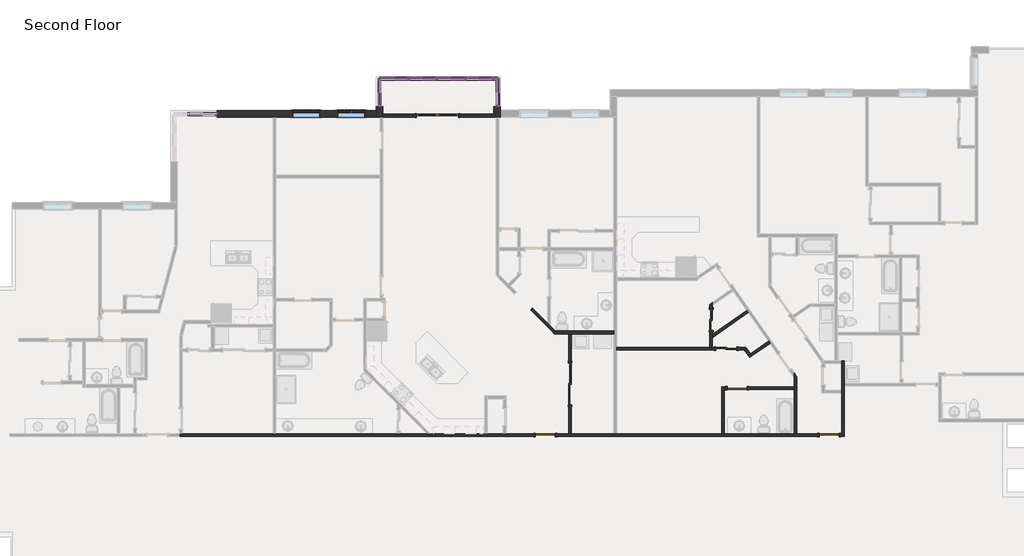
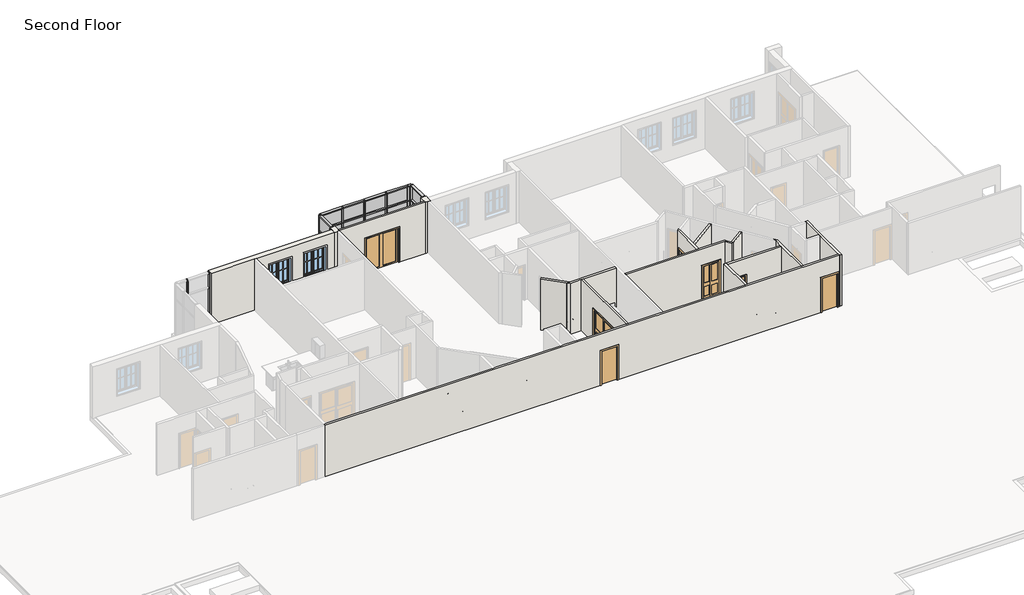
# One storey, part 10 of 17: 46 members, 17 walls, 14 plates, 7 doors, 2 windows.
"""IFC4 building model written with IfcOpenShell, lengths in millimetres."""

from ifc_helpers import new_model, si_unit, frame, origin, place, context, project, spatial, polyline, outline, extrude, faceted_brep, transform, mapped, element, save
from components import door_0a7806e9, door_c29894e6, door_88c23cd7, door_caaf2a11, rectangular_mullion_rectangular_mullion_1_fa3625a1, rectangular_mullion_rectangular_mullion_1_6186cc23, rectangular_mullion_rectangular_mullion_1_049a2e78, rectangular_mullion_rectangular_mullion_1_5cd4c5ac, rectangular_mullion_rectangular_mullion_1_a50b3cda, rectangular_mullion_rectangular_mullion_1_7cbf0b94, rectangular_mullion_rectangular_mullion_1_273a15f2, rectangular_mullion_rectangular_mullion_1_867fe1e1, rectangular_mullion_rectangular_mullion_1_e7cd13e6, rectangular_mullion_rectangular_mullion_1_4b421c8f, system_panel_glazed_53e6f9fb, system_panel_glazed_cb820e14, system_panel_glazed_53e3ec8b, system_panel_glazed_bdec29fe, system_panel_glazed_a1d2dedd, system_panel_glazed_37454f57, window_33528cc2

model = new_model("IFC4")

# Units and contexts
model_context = context("Model", 3, world=origin())
ifc_project = project(units=[si_unit("LENGTHUNIT", "METRE", prefix="MILLI")], contexts=[model_context])

# Site, building, storey
site = spatial("IfcSite", under=ifc_project)
building = spatial("IfcBuilding", under=site)
storey = spatial("IfcBuildingStorey", under=building, Name="Second Floor", Elevation=3048.0)

# Doors
placement = place(None, origin())
door_shape = door_0a7806e9(model_context)
element("IfcDoor", 1, ObjectType="Double-Glass 1 : 72\" x 82\"", at=placement, inside=storey, context=model_context, shape_type="MappedRepresentation", body=[
    mapped(door_shape, transform((29070.5311023, 16131.8552839, 3048.0), x_axis=(1.0, 0.0, 0.0), y_axis=(0.0, 1.0, 0.0), z_axis=(0.0, 0.0, 1.0))),
])
door_2_shape = door_c29894e6(model_context)
element("IfcDoor", 2, ObjectType="Single-Flush : 34\" x 80\"", at=placement, inside=storey, context=model_context, shape_type="MappedRepresentation", body=[
    mapped(door_2_shape, transform((46002.0126872, 2302.2091714, 3048.0), x_axis=(1.0, 0.0, 0.0), y_axis=(0.0, 1.0, 0.0), z_axis=(0.0, 0.0, 1.0))),
])
element("IfcDoor", 3, ObjectType="Single-Flush : 34\" x 80\"", at=placement, inside=storey, context=model_context, shape_type="MappedRepresentation", body=[
    mapped(door_2_shape, transform((42028.0852525, 4334.2091714, 3048.0), x_axis=(-1.0, 0.0, 0.0), y_axis=(0.0, -1.0, 0.0), z_axis=(0.0, 0.0, 1.0))),
])
element("IfcDoor", 4, ObjectType="Single-Flush : 34\" x 80\"", at=placement, inside=storey, context=model_context, shape_type="MappedRepresentation", body=[
    mapped(door_2_shape, transform((33733.8246645, 2302.2091714, 3048.0), x_axis=(1.0, 0.0, 0.0), y_axis=(0.0, 1.0, 0.0), z_axis=(0.0, 0.0, 1.0))),
])
door_3_shape = door_88c23cd7(model_context)
element("IfcDoor", 5, ObjectType="Sliding-Closet : 36\" x 80\"", at=placement, inside=storey, context=model_context, shape_type="MappedRepresentation", body=[
    mapped(door_3_shape, transform((41029.9347694, 7292.860079, 3048.0), x_axis=(0.0, 1.0, 0.0), y_axis=(-1.0, 0.0, 0.0), z_axis=(0.0, 0.0, 1.0))),
])
element("IfcDoor", 6, ObjectType="Sliding-Closet : 36\" x 80\"", at=placement, inside=storey, context=model_context, shape_type="MappedRepresentation", body=[
    mapped(door_3_shape, transform((41563.3347694, 5921.260079, 3048.0), x_axis=(1.0, 0.0, 0.0), y_axis=(0.0, 1.0, 0.0), z_axis=(0.0, 0.0, 1.0))),
])
door_4_shape = door_caaf2a11(model_context)
element("IfcDoor", 7, ObjectType="Sliding-Closet : 72\" x 80\"", at=placement, inside=storey, context=model_context, shape_type="MappedRepresentation", body=[
    mapped(door_4_shape, transform((34927.6246645, 4525.6075569, 3048.0), x_axis=(0.0, 1.0, 0.0), y_axis=(-1.0, 0.0, 0.0), z_axis=(0.0, 0.0, 1.0))),
])

# Members
rectangular_mullion_rectangular_mullion_1_shape = rectangular_mullion_rectangular_mullion_1_fa3625a1(model_context)
element("IfcMember", 8, ObjectType="Rectangular Mullion : Rectangular Mullion 1", at=placement, inside=storey, context=model_context, shape_type="MappedRepresentation", body=[
    mapped(rectangular_mullion_rectangular_mullion_1_shape, transform((19487.8198571, 16206.4791823, 3048.0), x_axis=(0.0, 0.0, -1.0), y_axis=(0.0, 1.0, 0.0), z_axis=(1.0, 0.0, 0.0))),
])
rectangular_mullion_rectangular_mullion_1_2_shape = rectangular_mullion_rectangular_mullion_1_6186cc23(model_context)
element("IfcMember", 9, ObjectType="Rectangular Mullion : Rectangular Mullion 1", at=placement, inside=storey, context=model_context, shape_type="MappedRepresentation", body=[
    mapped(rectangular_mullion_rectangular_mullion_1_2_shape, transform((18300.3698568, 16206.4791823, 3048.0), x_axis=(-1.0, 0.0, 0.0), y_axis=(0.0, 1.0, 0.0), z_axis=(0.0, 0.0, -1.0))),
])
rectangular_mullion_rectangular_mullion_1_3_shape = rectangular_mullion_rectangular_mullion_1_049a2e78(model_context)
element("IfcMember", 10, ObjectType="Rectangular Mullion : Rectangular Mullion 1", at=placement, inside=storey, context=model_context, shape_type="MappedRepresentation", body=[
    mapped(rectangular_mullion_rectangular_mullion_1_3_shape, transform((18300.3698568, 16206.4791823, 5213.35), x_axis=(-1.0, 0.0, 0.0), y_axis=(0.0, 1.0, 0.0), z_axis=(0.0, 0.0, -1.0))),
])
rectangular_mullion_rectangular_mullion_1_4_shape = rectangular_mullion_rectangular_mullion_1_5cd4c5ac(model_context)
element("IfcMember", 11, ObjectType="Rectangular Mullion : Rectangular Mullion 1", at=placement, inside=storey, context=model_context, shape_type="MappedRepresentation", body=[
    mapped(rectangular_mullion_rectangular_mullion_1_4_shape, transform((19551.3198571, 16206.4791823, 6096.0), x_axis=(1.0, 0.0, 0.0), y_axis=(0.0, 1.0, 0.0), z_axis=(0.0, 0.0, 1.0))),
])
rectangular_mullion_rectangular_mullion_1_5_shape = rectangular_mullion_rectangular_mullion_1_a50b3cda(model_context)
element("IfcMember", 12, ObjectType="Rectangular Mullion : Rectangular Mullion 1", at=placement, inside=storey, context=model_context, shape_type="MappedRepresentation", body=[
    mapped(rectangular_mullion_rectangular_mullion_1_5_shape, transform((19551.3198571, 16206.4791823, 5213.35), x_axis=(1.0, 0.0, 0.0), y_axis=(0.0, 1.0, 0.0), z_axis=(0.0, 0.0, 1.0))),
])
element("IfcMember", 13, ObjectType="Rectangular Mullion : Rectangular Mullion 1", at=placement, inside=storey, context=model_context, shape_type="MappedRepresentation", body=[
    mapped(rectangular_mullion_rectangular_mullion_1_shape, transform((27780.9198574, 17730.4791823, 6096.0), x_axis=(0.0, 0.0, 1.0), y_axis=(0.0, -1.0, 0.0), z_axis=(1.0, 0.0, 0.0))),
])
element("IfcMember", 14, ObjectType="Rectangular Mullion : Rectangular Mullion 1", at=placement, inside=storey, context=model_context, shape_type="MappedRepresentation", body=[
    mapped(rectangular_mullion_rectangular_mullion_1_shape, transform((29000.1198574, 17730.4791823, 6096.0), x_axis=(0.0, 0.0, 1.0), y_axis=(0.0, -1.0, 0.0), z_axis=(1.0, 0.0, 0.0))),
])
element("IfcMember", 15, ObjectType="Rectangular Mullion : Rectangular Mullion 1", at=placement, inside=storey, context=model_context, shape_type="MappedRepresentation", body=[
    mapped(rectangular_mullion_rectangular_mullion_1_shape, transform((30219.3198574, 17730.4791823, 6096.0), x_axis=(0.0, 0.0, 1.0), y_axis=(0.0, -1.0, 0.0), z_axis=(1.0, 0.0, 0.0))),
])
element("IfcMember", 16, ObjectType="Rectangular Mullion : Rectangular Mullion 1", at=placement, inside=storey, context=model_context, shape_type="MappedRepresentation", body=[
    mapped(rectangular_mullion_rectangular_mullion_1_shape, transform((31438.5198574, 17730.4791823, 6096.0), x_axis=(0.0, 0.0, 1.0), y_axis=(0.0, -1.0, 0.0), z_axis=(1.0, 0.0, 0.0))),
])
element("IfcMember", 17, ObjectType="Rectangular Mullion : Rectangular Mullion 1", at=placement, inside=storey, context=model_context, shape_type="MappedRepresentation", body=[
    mapped(rectangular_mullion_rectangular_mullion_1_shape, transform((26625.2198571, 17730.4791823, 3048.0), x_axis=(0.0, 0.0, -1.0), y_axis=(0.0, -1.0, 0.0), z_axis=(-1.0, 0.0, 0.0))),
])
element("IfcMember", 18, ObjectType="Rectangular Mullion : Rectangular Mullion 1", at=placement, inside=storey, context=model_context, shape_type="MappedRepresentation", body=[
    mapped(rectangular_mullion_rectangular_mullion_1_shape, transform((27844.4198574, 17730.4791823, 3048.0), x_axis=(0.0, 0.0, -1.0), y_axis=(0.0, -1.0, 0.0), z_axis=(-1.0, 0.0, 0.0))),
])
element("IfcMember", 19, ObjectType="Rectangular Mullion : Rectangular Mullion 1", at=placement, inside=storey, context=model_context, shape_type="MappedRepresentation", body=[
    mapped(rectangular_mullion_rectangular_mullion_1_shape, transform((29063.6198574, 17730.4791823, 3048.0), x_axis=(0.0, 0.0, -1.0), y_axis=(0.0, -1.0, 0.0), z_axis=(-1.0, 0.0, 0.0))),
])
element("IfcMember", 20, ObjectType="Rectangular Mullion : Rectangular Mullion 1", at=placement, inside=storey, context=model_context, shape_type="MappedRepresentation", body=[
    mapped(rectangular_mullion_rectangular_mullion_1_shape, transform((30282.8198574, 17730.4791823, 3048.0), x_axis=(0.0, 0.0, -1.0), y_axis=(0.0, -1.0, 0.0), z_axis=(-1.0, 0.0, 0.0))),
])
element("IfcMember", 21, ObjectType="Rectangular Mullion : Rectangular Mullion 1", at=placement, inside=storey, context=model_context, shape_type="MappedRepresentation", body=[
    mapped(rectangular_mullion_rectangular_mullion_1_5_shape, transform((26561.7198571, 17730.4791823, 3048.0), x_axis=(0.0, 1.0, 0.0), y_axis=(1.0, 0.0, 0.0), z_axis=(0.0, 0.0, -1.0))),
])
element("IfcMember", 22, ObjectType="Rectangular Mullion : Rectangular Mullion 1", at=placement, inside=storey, context=model_context, shape_type="MappedRepresentation", body=[
    mapped(rectangular_mullion_rectangular_mullion_1_5_shape, transform((31667.447822, 17730.4791823, 3048.0), x_axis=(1.0, 0.0, 0.0), y_axis=(0.0, -1.0, 0.0), z_axis=(0.0, 0.0, -1.0))),
])
element("IfcMember", 23, ObjectType="Rectangular Mullion : Rectangular Mullion 1", at=placement, inside=storey, context=model_context, shape_type="MappedRepresentation", body=[
    mapped(rectangular_mullion_rectangular_mullion_1_5_shape, transform((31667.447822, 16511.2791823, 3048.0), x_axis=(0.0, -1.0, 0.0), y_axis=(-1.0, 0.0, 0.0), z_axis=(0.0, 0.0, -1.0))),
])
element("IfcMember", 24, ObjectType="Rectangular Mullion : Rectangular Mullion 1", at=placement, inside=storey, context=model_context, shape_type="MappedRepresentation", body=[
    mapped(rectangular_mullion_rectangular_mullion_1_4_shape, transform((26561.7198571, 17730.4791823, 5213.35), x_axis=(0.0, 1.0, 0.0), y_axis=(1.0, 0.0, 0.0), z_axis=(0.0, 0.0, -1.0))),
])
element("IfcMember", 25, ObjectType="Rectangular Mullion : Rectangular Mullion 1", at=placement, inside=storey, context=model_context, shape_type="MappedRepresentation", body=[
    mapped(rectangular_mullion_rectangular_mullion_1_4_shape, transform((31667.447822, 17730.4791823, 5213.35), x_axis=(1.0, 0.0, 0.0), y_axis=(0.0, -1.0, 0.0), z_axis=(0.0, 0.0, -1.0))),
])
element("IfcMember", 26, ObjectType="Rectangular Mullion : Rectangular Mullion 1", at=placement, inside=storey, context=model_context, shape_type="MappedRepresentation", body=[
    mapped(rectangular_mullion_rectangular_mullion_1_4_shape, transform((31667.447822, 16511.2791823, 5213.35), x_axis=(0.0, -1.0, 0.0), y_axis=(-1.0, 0.0, 0.0), z_axis=(0.0, 0.0, -1.0))),
])
element("IfcMember", 27, ObjectType="Rectangular Mullion : Rectangular Mullion 1", at=placement, inside=storey, context=model_context, shape_type="MappedRepresentation", body=[
    mapped(rectangular_mullion_rectangular_mullion_1_4_shape, transform((26561.7198571, 16511.2791823, 6096.0), x_axis=(0.0, -1.0, 0.0), y_axis=(1.0, 0.0, 0.0), z_axis=(0.0, 0.0, 1.0))),
])
element("IfcMember", 28, ObjectType="Rectangular Mullion : Rectangular Mullion 1", at=placement, inside=storey, context=model_context, shape_type="MappedRepresentation", body=[
    mapped(rectangular_mullion_rectangular_mullion_1_4_shape, transform((26561.7198571, 17730.4791823, 6096.0), x_axis=(-1.0, 0.0, 0.0), y_axis=(0.0, -1.0, 0.0), z_axis=(0.0, 0.0, 1.0))),
])
element("IfcMember", 29, ObjectType="Rectangular Mullion : Rectangular Mullion 1", at=placement, inside=storey, context=model_context, shape_type="MappedRepresentation", body=[
    mapped(rectangular_mullion_rectangular_mullion_1_4_shape, transform((31667.447822, 17730.4791823, 6096.0), x_axis=(0.0, 1.0, 0.0), y_axis=(-1.0, 0.0, 0.0), z_axis=(0.0, 0.0, 1.0))),
])
element("IfcMember", 30, ObjectType="Rectangular Mullion : Rectangular Mullion 1", at=placement, inside=storey, context=model_context, shape_type="MappedRepresentation", body=[
    mapped(rectangular_mullion_rectangular_mullion_1_5_shape, transform((26561.7198571, 16511.2791823, 5213.35), x_axis=(0.0, -1.0, 0.0), y_axis=(1.0, 0.0, 0.0), z_axis=(0.0, 0.0, 1.0))),
])
element("IfcMember", 31, ObjectType="Rectangular Mullion : Rectangular Mullion 1", at=placement, inside=storey, context=model_context, shape_type="MappedRepresentation", body=[
    mapped(rectangular_mullion_rectangular_mullion_1_5_shape, transform((26561.7198571, 17730.4791823, 5213.35), x_axis=(-1.0, 0.0, 0.0), y_axis=(0.0, -1.0, 0.0), z_axis=(0.0, 0.0, 1.0))),
])
element("IfcMember", 32, ObjectType="Rectangular Mullion : Rectangular Mullion 1", at=placement, inside=storey, context=model_context, shape_type="MappedRepresentation", body=[
    mapped(rectangular_mullion_rectangular_mullion_1_5_shape, transform((31667.447822, 17730.4791823, 5213.35), x_axis=(0.0, 1.0, 0.0), y_axis=(-1.0, 0.0, 0.0), z_axis=(0.0, 0.0, 1.0))),
])
rectangular_mullion_rectangular_mullion_1_6_shape = rectangular_mullion_rectangular_mullion_1_7cbf0b94(model_context)
element("IfcMember", 33, ObjectType="Rectangular Mullion : Rectangular Mullion 1", at=placement, inside=storey, context=model_context, shape_type="MappedRepresentation", body=[
    mapped(rectangular_mullion_rectangular_mullion_1_6_shape, transform((27780.9198574, 17730.4791823, 5213.35), x_axis=(0.0, 0.0, 1.0), y_axis=(0.0, -1.0, 0.0), z_axis=(1.0, 0.0, 0.0))),
])
element("IfcMember", 34, ObjectType="Rectangular Mullion : Rectangular Mullion 1", at=placement, inside=storey, context=model_context, shape_type="MappedRepresentation", body=[
    mapped(rectangular_mullion_rectangular_mullion_1_6_shape, transform((29000.1198574, 17730.4791823, 5213.35), x_axis=(0.0, 0.0, 1.0), y_axis=(0.0, -1.0, 0.0), z_axis=(1.0, 0.0, 0.0))),
])
element("IfcMember", 35, ObjectType="Rectangular Mullion : Rectangular Mullion 1", at=placement, inside=storey, context=model_context, shape_type="MappedRepresentation", body=[
    mapped(rectangular_mullion_rectangular_mullion_1_6_shape, transform((30219.3198574, 17730.4791823, 5213.35), x_axis=(0.0, 0.0, 1.0), y_axis=(0.0, -1.0, 0.0), z_axis=(1.0, 0.0, 0.0))),
])
element("IfcMember", 36, ObjectType="Rectangular Mullion : Rectangular Mullion 1", at=placement, inside=storey, context=model_context, shape_type="MappedRepresentation", body=[
    mapped(rectangular_mullion_rectangular_mullion_1_6_shape, transform((31438.5198574, 17730.4791823, 5213.35), x_axis=(0.0, 0.0, 1.0), y_axis=(0.0, -1.0, 0.0), z_axis=(1.0, 0.0, 0.0))),
])
element("IfcMember", 37, ObjectType="Rectangular Mullion : Rectangular Mullion 1", at=placement, inside=storey, context=model_context, shape_type="MappedRepresentation", body=[
    mapped(rectangular_mullion_rectangular_mullion_1_2_shape, transform((27812.6698574, 17730.4791823, 3048.0), x_axis=(1.0, 0.0, 0.0), y_axis=(0.0, -1.0, 0.0), z_axis=(0.0, 0.0, -1.0))),
])
element("IfcMember", 38, ObjectType="Rectangular Mullion : Rectangular Mullion 1", at=placement, inside=storey, context=model_context, shape_type="MappedRepresentation", body=[
    mapped(rectangular_mullion_rectangular_mullion_1_2_shape, transform((29031.8698574, 17730.4791823, 3048.0), x_axis=(1.0, 0.0, 0.0), y_axis=(0.0, -1.0, 0.0), z_axis=(0.0, 0.0, -1.0))),
])
element("IfcMember", 39, ObjectType="Rectangular Mullion : Rectangular Mullion 1", at=placement, inside=storey, context=model_context, shape_type="MappedRepresentation", body=[
    mapped(rectangular_mullion_rectangular_mullion_1_2_shape, transform((30251.0698574, 17730.4791823, 3048.0), x_axis=(1.0, 0.0, 0.0), y_axis=(0.0, -1.0, 0.0), z_axis=(0.0, 0.0, -1.0))),
])
element("IfcMember", 40, ObjectType="Rectangular Mullion : Rectangular Mullion 1", at=placement, inside=storey, context=model_context, shape_type="MappedRepresentation", body=[
    mapped(rectangular_mullion_rectangular_mullion_1_2_shape, transform((31470.2698574, 17730.4791823, 3048.0), x_axis=(1.0, 0.0, 0.0), y_axis=(0.0, -1.0, 0.0), z_axis=(0.0, 0.0, -1.0))),
])
element("IfcMember", 41, ObjectType="Rectangular Mullion : Rectangular Mullion 1", at=placement, inside=storey, context=model_context, shape_type="MappedRepresentation", body=[
    mapped(rectangular_mullion_rectangular_mullion_1_3_shape, transform((27812.6698574, 17730.4791823, 5213.35), x_axis=(1.0, 0.0, 0.0), y_axis=(0.0, -1.0, 0.0), z_axis=(0.0, 0.0, -1.0))),
])
element("IfcMember", 42, ObjectType="Rectangular Mullion : Rectangular Mullion 1", at=placement, inside=storey, context=model_context, shape_type="MappedRepresentation", body=[
    mapped(rectangular_mullion_rectangular_mullion_1_3_shape, transform((29031.8698574, 17730.4791823, 5213.35), x_axis=(1.0, 0.0, 0.0), y_axis=(0.0, -1.0, 0.0), z_axis=(0.0, 0.0, -1.0))),
])
element("IfcMember", 43, ObjectType="Rectangular Mullion : Rectangular Mullion 1", at=placement, inside=storey, context=model_context, shape_type="MappedRepresentation", body=[
    mapped(rectangular_mullion_rectangular_mullion_1_3_shape, transform((30251.0698574, 17730.4791823, 5213.35), x_axis=(1.0, 0.0, 0.0), y_axis=(0.0, -1.0, 0.0), z_axis=(0.0, 0.0, -1.0))),
])
element("IfcMember", 44, ObjectType="Rectangular Mullion : Rectangular Mullion 1", at=placement, inside=storey, context=model_context, shape_type="MappedRepresentation", body=[
    mapped(rectangular_mullion_rectangular_mullion_1_3_shape, transform((31470.2698574, 17730.4791823, 5213.35), x_axis=(1.0, 0.0, 0.0), y_axis=(0.0, -1.0, 0.0), z_axis=(0.0, 0.0, -1.0))),
])
rectangular_mullion_rectangular_mullion_1_7_shape = rectangular_mullion_rectangular_mullion_1_273a15f2(model_context)
element("IfcMember", 45, ObjectType="Rectangular Mullion : Rectangular Mullion 1", at=placement, inside=storey, context=model_context, shape_type="MappedRepresentation", body=[
    mapped(rectangular_mullion_rectangular_mullion_1_7_shape, transform((26561.7198571, 17666.9791823, 6096.0), x_axis=(0.0, 0.0, 1.0), y_axis=(1.0, 0.0, 0.0), z_axis=(0.0, 1.0, 0.0))),
])
element("IfcMember", 46, ObjectType="Rectangular Mullion : Rectangular Mullion 1", at=placement, inside=storey, context=model_context, shape_type="MappedRepresentation", body=[
    mapped(rectangular_mullion_rectangular_mullion_1_7_shape, transform((31667.447822, 16574.7791823, 6096.0), x_axis=(0.0, 0.0, 1.0), y_axis=(-1.0, 0.0, 0.0), z_axis=(0.0, -1.0, 0.0))),
])
element("IfcMember", 47, ObjectType="Rectangular Mullion : Rectangular Mullion 1", at=placement, inside=storey, context=model_context, shape_type="MappedRepresentation", body=[
    mapped(rectangular_mullion_rectangular_mullion_1_7_shape, transform((26561.7198571, 16574.7791823, 3048.0), x_axis=(0.0, 0.0, -1.0), y_axis=(1.0, 0.0, 0.0), z_axis=(0.0, -1.0, 0.0))),
])
element("IfcMember", 48, ObjectType="Rectangular Mullion : Rectangular Mullion 1", at=placement, inside=storey, context=model_context, shape_type="MappedRepresentation", body=[
    mapped(rectangular_mullion_rectangular_mullion_1_7_shape, transform((31667.447822, 17666.9791823, 3048.0), x_axis=(0.0, 0.0, -1.0), y_axis=(-1.0, 0.0, 0.0), z_axis=(0.0, 1.0, 0.0))),
])
rectangular_mullion_rectangular_mullion_1_8_shape = rectangular_mullion_rectangular_mullion_1_867fe1e1(model_context)
element("IfcMember", 49, ObjectType="Rectangular Mullion : Rectangular Mullion 1", at=placement, inside=storey, context=model_context, shape_type="MappedRepresentation", body=[
    mapped(rectangular_mullion_rectangular_mullion_1_8_shape, transform((26561.7198571, 17666.9791823, 5213.35), x_axis=(0.0, 0.0, 1.0), y_axis=(1.0, 0.0, 0.0), z_axis=(0.0, 1.0, 0.0))),
])
element("IfcMember", 50, ObjectType="Rectangular Mullion : Rectangular Mullion 1", at=placement, inside=storey, context=model_context, shape_type="MappedRepresentation", body=[
    mapped(rectangular_mullion_rectangular_mullion_1_8_shape, transform((31667.447822, 16574.7791823, 5213.35), x_axis=(0.0, 0.0, 1.0), y_axis=(-1.0, 0.0, 0.0), z_axis=(0.0, -1.0, 0.0))),
])
rectangular_mullion_rectangular_mullion_1_9_shape = rectangular_mullion_rectangular_mullion_1_e7cd13e6(model_context)
element("IfcMember", 51, ObjectType="Rectangular Mullion : Rectangular Mullion 1", at=placement, inside=storey, context=model_context, shape_type="MappedRepresentation", body=[
    mapped(rectangular_mullion_rectangular_mullion_1_9_shape, transform((31603.947822, 17730.4791823, 6096.0), x_axis=(0.0, 0.0, 1.0), y_axis=(0.0, -1.0, 0.0), z_axis=(1.0, 0.0, 0.0))),
])
element("IfcMember", 52, ObjectType="Rectangular Mullion : Rectangular Mullion 1", at=placement, inside=storey, context=model_context, shape_type="MappedRepresentation", body=[
    mapped(rectangular_mullion_rectangular_mullion_1_9_shape, transform((31502.0198574, 17730.4791823, 3048.0), x_axis=(0.0, 0.0, -1.0), y_axis=(0.0, -1.0, 0.0), z_axis=(-1.0, 0.0, 0.0))),
])
rectangular_mullion_rectangular_mullion_1_10_shape = rectangular_mullion_rectangular_mullion_1_4b421c8f(model_context)
element("IfcMember", 53, ObjectType="Rectangular Mullion : Rectangular Mullion 1", at=placement, inside=storey, context=model_context, shape_type="MappedRepresentation", body=[
    mapped(rectangular_mullion_rectangular_mullion_1_10_shape, transform((31603.947822, 17730.4791823, 5213.35), x_axis=(0.0, 0.0, 1.0), y_axis=(0.0, -1.0, 0.0), z_axis=(1.0, 0.0, 0.0))),
])

# Plates
system_panel_glazed_shape = system_panel_glazed_53e6f9fb(model_context)
element("IfcPlate", 54, ObjectType="System Panel : Glazed", at=placement, inside=storey, context=model_context, shape_type="MappedRepresentation", body=[
    mapped(system_panel_glazed_shape, transform((27203.0698573, 17730.4791823, 3111.5), x_axis=(1.0, 0.0, 0.0), y_axis=(0.0, 1.0, 0.0), z_axis=(0.0, 0.0, 1.0))),
])
element("IfcPlate", 55, ObjectType="System Panel : Glazed", at=placement, inside=storey, context=model_context, shape_type="MappedRepresentation", body=[
    mapped(system_panel_glazed_shape, transform((28422.2698574, 17730.4791823, 3111.5), x_axis=(1.0, 0.0, 0.0), y_axis=(0.0, 1.0, 0.0), z_axis=(0.0, 0.0, 1.0))),
])
element("IfcPlate", 56, ObjectType="System Panel : Glazed", at=placement, inside=storey, context=model_context, shape_type="MappedRepresentation", body=[
    mapped(system_panel_glazed_shape, transform((29641.4698574, 17730.4791823, 3111.5), x_axis=(1.0, 0.0, 0.0), y_axis=(0.0, 1.0, 0.0), z_axis=(0.0, 0.0, 1.0))),
])
element("IfcPlate", 57, ObjectType="System Panel : Glazed", at=placement, inside=storey, context=model_context, shape_type="MappedRepresentation", body=[
    mapped(system_panel_glazed_shape, transform((30860.6698574, 17730.4791823, 3111.5), x_axis=(1.0, 0.0, 0.0), y_axis=(0.0, 1.0, 0.0), z_axis=(0.0, 0.0, 1.0))),
])
system_panel_glazed_2_shape = system_panel_glazed_cb820e14(model_context)
element("IfcPlate", 58, ObjectType="System Panel : Glazed", at=placement, inside=storey, context=model_context, shape_type="MappedRepresentation", body=[
    mapped(system_panel_glazed_2_shape, transform((27203.0698573, 17730.4791823, 5245.1), x_axis=(1.0, 0.0, 0.0), y_axis=(0.0, 1.0, 0.0), z_axis=(0.0, 0.0, 1.0))),
])
element("IfcPlate", 59, ObjectType="System Panel : Glazed", at=placement, inside=storey, context=model_context, shape_type="MappedRepresentation", body=[
    mapped(system_panel_glazed_2_shape, transform((28422.2698574, 17730.4791823, 5245.1), x_axis=(1.0, 0.0, 0.0), y_axis=(0.0, 1.0, 0.0), z_axis=(0.0, 0.0, 1.0))),
])
element("IfcPlate", 60, ObjectType="System Panel : Glazed", at=placement, inside=storey, context=model_context, shape_type="MappedRepresentation", body=[
    mapped(system_panel_glazed_2_shape, transform((29641.4698574, 17730.4791823, 5245.1), x_axis=(1.0, 0.0, 0.0), y_axis=(0.0, 1.0, 0.0), z_axis=(0.0, 0.0, 1.0))),
])
element("IfcPlate", 61, ObjectType="System Panel : Glazed", at=placement, inside=storey, context=model_context, shape_type="MappedRepresentation", body=[
    mapped(system_panel_glazed_2_shape, transform((30860.6698574, 17730.4791823, 5245.1), x_axis=(1.0, 0.0, 0.0), y_axis=(0.0, 1.0, 0.0), z_axis=(0.0, 0.0, 1.0))),
])
system_panel_glazed_3_shape = system_panel_glazed_53e3ec8b(model_context)
element("IfcPlate", 62, ObjectType="System Panel : Glazed", at=placement, inside=storey, context=model_context, shape_type="MappedRepresentation", body=[
    mapped(system_panel_glazed_3_shape, transform((26561.7198571, 17120.8791823, 3111.5), x_axis=(0.0, 1.0, 0.0), y_axis=(-1.0, 0.0, 0.0), z_axis=(0.0, 0.0, 1.0))),
])
element("IfcPlate", 63, ObjectType="System Panel : Glazed", at=placement, inside=storey, context=model_context, shape_type="MappedRepresentation", body=[
    mapped(system_panel_glazed_3_shape, transform((31667.447822, 17120.8791823, 3111.5), x_axis=(0.0, -1.0, 0.0), y_axis=(1.0, 0.0, 0.0), z_axis=(0.0, 0.0, 1.0))),
])
system_panel_glazed_4_shape = system_panel_glazed_bdec29fe(model_context)
element("IfcPlate", 64, ObjectType="System Panel : Glazed", at=placement, inside=storey, context=model_context, shape_type="MappedRepresentation", body=[
    mapped(system_panel_glazed_4_shape, transform((26561.7198571, 17120.8791823, 5245.1), x_axis=(0.0, 1.0, 0.0), y_axis=(-1.0, 0.0, 0.0), z_axis=(0.0, 0.0, 1.0))),
])
element("IfcPlate", 65, ObjectType="System Panel : Glazed", at=placement, inside=storey, context=model_context, shape_type="MappedRepresentation", body=[
    mapped(system_panel_glazed_4_shape, transform((31667.447822, 17120.8791823, 5245.1), x_axis=(0.0, -1.0, 0.0), y_axis=(1.0, 0.0, 0.0), z_axis=(0.0, 0.0, 1.0))),
])
system_panel_glazed_5_shape = system_panel_glazed_a1d2dedd(model_context)
element("IfcPlate", 66, ObjectType="System Panel : Glazed", at=placement, inside=storey, context=model_context, shape_type="MappedRepresentation", body=[
    mapped(system_panel_glazed_5_shape, transform((31552.9838397, 17730.4791823, 3111.5), x_axis=(1.0, 0.0, 0.0), y_axis=(0.0, 1.0, 0.0), z_axis=(0.0, 0.0, 1.0))),
])
system_panel_glazed_6_shape = system_panel_glazed_37454f57(model_context)
element("IfcPlate", 67, ObjectType="System Panel : Glazed", at=placement, inside=storey, context=model_context, shape_type="MappedRepresentation", body=[
    mapped(system_panel_glazed_6_shape, transform((31552.9838397, 17730.4791823, 5245.1), x_axis=(1.0, 0.0, 0.0), y_axis=(0.0, 1.0, 0.0), z_axis=(0.0, 0.0, 1.0))),
])

# Walls
element("IfcWall", 68, ObjectType="Exterior - Brick on Wood Stud", at=placement, inside=storey, context=model_context, shape_type="Brep", body=[
    faceted_brep([(31777.7798474, 16077.0865339, 3048.0), (31777.7798474, 16359.6615339, 3048.0), (31777.7798474, 16511.2791823, 3048.0), (31777.7798474, 16511.2791823, 6096.0), (31777.7798474, 16359.6615339, 6096.0), (31777.7798474, 16077.0865339, 6096.0), (31495.2048474, 16077.0865339, 3048.0), (31495.2048474, 16077.0865339, 6096.0), (31495.2048474, 16191.3865339, 6096.0), (31495.2048474, 16511.2791823, 6096.0), (31495.2048474, 16511.2791823, 3048.0), (31495.2048474, 16191.3865339, 3048.0), (31724.597822, 16077.0865339, 3048.0), (31610.297822, 16077.0865339, 3048.0), (31610.297822, 16077.0865339, 6096.0), (31724.597822, 16077.0865339, 6096.0)], [[[0, 1, 2, 3, 4, 5]], [[6, 7, 8, 9, 10, 11]], [[2, 1, 0, 12, 13, 6, 11, 10]], [[3, 2, 10, 9]], [[5, 4, 3, 9, 8, 7, 14, 15]], [[0, 5, 15, 14, 7, 6, 13, 12]]]),
])
element("IfcWall", 69, ObjectType="Exterior - Brick on Wood Stud", at=placement, inside=storey, context=model_context, shape_type="Brep", body=[
    faceted_brep([(26420.4323571, 16511.2791823, 3048.0), (26420.4323571, 16347.7666823, 3048.0), (26420.4323571, 16065.1916823, 3048.0), (26420.4323571, 16065.1916823, 6096.0), (26420.4323571, 16347.7666823, 6096.0), (26420.4323571, 16511.2791823, 6096.0), (26703.0073571, 16511.2791823, 3048.0), (26703.0073571, 16511.2791823, 6096.0), (26703.0073571, 16191.3865339, 6096.0), (26703.0073571, 16077.0865339, 6096.0), (26703.0073571, 16065.1916823, 6096.0), (26703.0073571, 16065.1916823, 3048.0), (26703.0073571, 16077.0865339, 3048.0), (26703.0073571, 16191.3865339, 3048.0)], [[[0, 1, 2, 3, 4, 5]], [[6, 7, 8, 9, 10, 11, 12, 13]], [[2, 1, 0, 6, 13, 12, 11]], [[5, 4, 3, 10, 9, 8, 7]], [[0, 5, 7, 6]], [[3, 2, 11, 10]]]),
])
element("IfcWall", 70, ObjectType="Exterior - Brick on Wood Stud", at=placement, inside=storey, context=model_context, shape_type="Brep", body=[
    faceted_brep([(26420.4323571, 16347.7666823, 3048.0), (19551.3198571, 16347.7666823, 3048.0), (19551.3198571, 16347.7666823, 6096.0), (26420.4323571, 16347.7666823, 6096.0), (25952.1198571, 16347.7666823, 5486.4), (24732.9198571, 16347.7666823, 5486.4), (24732.9198571, 16347.7666823, 3962.4), (25952.1198571, 16347.7666823, 3962.4), (24004.2573571, 16347.7666823, 5486.4), (22785.0573571, 16347.7666823, 5486.4), (22785.0573571, 16347.7666823, 3962.4), (24004.2573571, 16347.7666823, 3962.4), (26420.4323571, 16065.1916823, 3048.0), (26420.4323571, 16065.1916823, 6096.0), (22080.2073571, 16065.1916823, 6096.0), (21965.9073571, 16065.1916823, 6096.0), (19551.3198571, 16065.1916823, 6096.0), (19551.3198571, 16065.1916823, 3048.0), (21965.9073571, 16065.1916823, 3048.0), (22080.2073571, 16065.1916823, 3048.0), (25952.1198571, 16065.1916823, 5486.4), (25952.1198571, 16065.1916823, 3962.4), (24732.9198571, 16065.1916823, 3962.4), (24732.9198571, 16065.1916823, 5486.4), (24004.2573571, 16065.1916823, 5486.4), (24004.2573571, 16065.1916823, 3962.4), (22785.0573571, 16065.1916823, 3962.4), (22785.0573571, 16065.1916823, 5486.4)], [[[0, 1, 2, 3], [4, 5, 6, 7], [8, 9, 10, 11]], [[12, 13, 14, 15, 16, 17, 18, 19], [20, 21, 22, 23], [24, 25, 26, 27]], [[1, 0, 12, 19, 18, 17]], [[2, 1, 17, 16]], [[3, 2, 16, 15, 14, 13]], [[21, 20, 4, 7]], [[22, 21, 7, 6]], [[23, 22, 6, 5]], [[20, 23, 5, 4]], [[25, 24, 8, 11]], [[26, 25, 11, 10]], [[27, 26, 10, 9]], [[24, 27, 9, 8]], [[0, 3, 13, 12]]]),
])
element("IfcWall", 71, ObjectType="Interior - 4 1/2\" Partition", at=placement, inside=storey, context=model_context, shape_type="Brep", body=[
    faceted_brep([(46668.7626872, 2245.0591714, 3048.0), (46668.7626872, 4430.1886142, 3048.0), (46668.7626872, 4544.4886142, 3048.0), (46668.7626872, 5524.2893477, 3048.0), (46668.7626872, 5524.2893477, 6096.0), (46668.7626872, 4544.4886142, 6096.0), (46668.7626872, 4430.1886142, 6096.0), (46668.7626872, 2245.0591714, 6096.0), (46554.4626872, 2245.0591714, 3048.0), (46554.4626872, 2245.0591714, 6096.0), (46554.4626872, 2359.3591714, 6096.0), (46554.4626872, 4124.6591714, 6096.0), (46554.4626872, 4238.9591714, 6096.0), (46554.4626872, 5409.9893477, 6096.0), (46554.4626872, 5524.2893477, 6096.0), (46554.4626872, 5524.2893477, 3048.0), (46554.4626872, 5409.9893477, 3048.0), (46554.4626872, 4238.9591714, 3048.0), (46554.4626872, 4124.6591714, 3048.0), (46554.4626872, 2359.3591714, 3048.0)], [[[0, 1, 2, 3, 4, 5, 6, 7]], [[8, 9, 10, 11, 12, 13, 14, 15, 16, 17, 18, 19]], [[3, 2, 1, 0, 8, 19, 18, 17, 16, 15]], [[7, 6, 5, 4, 14, 13, 12, 11, 10, 9]], [[0, 7, 9, 8]], [[4, 3, 15, 14]]]),
])
element("IfcWall", 72, ObjectType="Interior - 4 1/2\" Partition", at=placement, inside=storey, context=model_context, shape_type="Brep", body=[
    faceted_brep([(45570.2126872, 2359.3591714, 3048.0), (44606.2949591, 2359.3591714, 3048.0), (44491.9949591, 2359.3591714, 3048.0), (41475.6352525, 2359.3591714, 3048.0), (41361.3352525, 2359.3591714, 3048.0), (36816.4178001, 2359.3591714, 3048.0), (36702.1178001, 2359.3591714, 3048.0), (34857.7746645, 2359.3591714, 3048.0), (34743.4746645, 2359.3591714, 3048.0), (34165.6246645, 2359.3591714, 3048.0), (34165.6246645, 2359.3591714, 5080.0), (33302.0246645, 2359.3591714, 5080.0), (33302.0246645, 2359.3591714, 3048.0), (32034.1576897, 2359.3591714, 3048.0), (31919.8576897, 2359.3591714, 3048.0), (31221.3576897, 2359.3591714, 3048.0), (31107.0576897, 2359.3591714, 3048.0), (28783.4392197, 2359.3591714, 3048.0), (28621.7946095, 2359.3591714, 3048.0), (27441.30388, 2359.3591714, 3048.0), (27327.00388, 2359.3591714, 3048.0), (22080.2073571, 2359.3591714, 3048.0), (21965.9073571, 2359.3591714, 3048.0), (18027.8493195, 2359.3591714, 3048.0), (17913.5493195, 2359.3591714, 3048.0), (17913.5493195, 2359.3591714, 6096.0), (18027.8493195, 2359.3591714, 6096.0), (21965.9073571, 2359.3591714, 6096.0), (22080.2073571, 2359.3591714, 6096.0), (27327.00388, 2359.3591714, 6096.0), (27441.30388, 2359.3591714, 6096.0), (28621.7946095, 2359.3591714, 6096.0), (28783.4392197, 2359.3591714, 6096.0), (31107.0576897, 2359.3591714, 6096.0), (31221.3576897, 2359.3591714, 6096.0), (31919.8576897, 2359.3591714, 6096.0), (32034.1576897, 2359.3591714, 6096.0), (34743.4746645, 2359.3591714, 6096.0), (34857.7746645, 2359.3591714, 6096.0), (36702.1178001, 2359.3591714, 6096.0), (36816.4178001, 2359.3591714, 6096.0), (41361.3352525, 2359.3591714, 6096.0), (41475.6352525, 2359.3591714, 6096.0), (44491.9949591, 2359.3591714, 6096.0), (44606.2949591, 2359.3591714, 6096.0), (46554.4626872, 2359.3591714, 6096.0), (46554.4626872, 2359.3591714, 3048.0), (46433.8126872, 2359.3591714, 3048.0), (46433.8126872, 2359.3591714, 5080.0), (45570.2126872, 2359.3591714, 5080.0), (34165.6246645, 2245.0591714, 5080.0), (34165.6246645, 2245.0591714, 3048.0), (45570.2126872, 2245.0591714, 3048.0), (45570.2126872, 2245.0591714, 5080.0), (46433.8126872, 2245.0591714, 5080.0), (46433.8126872, 2245.0591714, 3048.0), (46554.4626872, 2245.0591714, 3048.0), (46554.4626872, 2245.0591714, 6096.0), (17913.5493195, 2245.0591714, 6096.0), (17913.5493195, 2245.0591714, 3048.0), (33302.0246645, 2245.0591714, 3048.0), (33302.0246645, 2245.0591714, 5080.0)], [[[0, 1, 2, 3, 4, 5, 6, 7, 8, 9, 10, 11, 12, 13, 14, 15, 16, 17, 18, 19, 20, 21, 22, 23, 24, 25, 26, 27, 28, 29, 30, 31, 32, 33, 34, 35, 36, 37, 38, 39, 40, 41, 42, 43, 44, 45, 46, 47, 48, 49]], [[50, 51, 52, 53, 54, 55, 56, 57, 58, 59, 60, 61]], [[56, 55, 47, 46]], [[60, 59, 24, 23, 22, 21, 20, 19, 18, 17, 16, 15, 14, 13, 12]], [[52, 51, 9, 8, 7, 6, 5, 4, 3, 2, 1, 0]], [[45, 44, 43, 42, 41, 40, 39, 38, 37, 36, 35, 34, 33, 32, 31, 30, 29, 28, 27, 26, 25, 58, 57]], [[48, 47, 55, 54]], [[49, 48, 54, 53]], [[0, 49, 53, 52]], [[10, 9, 51, 50]], [[11, 10, 50, 61]], [[12, 11, 61, 60]], [[25, 24, 59, 58]], [[46, 45, 57, 56]]]),
])
element("IfcWall", 73, ObjectType="Interior - 4 1/2\" Partition", at=placement, inside=storey, context=model_context, shape_type="Brep", body=[
    faceted_brep([(41475.6352525, 2359.3591714, 3048.0), (41475.6352525, 4277.0591714, 3048.0), (41475.6352525, 4391.3591714, 3048.0), (41475.6352525, 4391.3591714, 6096.0), (41475.6352525, 4277.0591714, 6096.0), (41475.6352525, 2359.3591714, 6096.0), (41361.3352525, 2359.3591714, 3048.0), (41361.3352525, 2359.3591714, 6096.0), (41361.3352525, 4391.3591714, 6096.0), (41361.3352525, 4391.3591714, 3048.0)], [[[0, 1, 2, 3, 4, 5]], [[6, 7, 8, 9]], [[2, 1, 0, 6, 9]], [[5, 4, 3, 8, 7]], [[3, 2, 9, 8]], [[0, 5, 7, 6]]]),
])
element("IfcWall", 74, ObjectType="Interior - 4 1/2\" Partition", at=placement, inside=storey, context=model_context, shape_type="SweptSolid", body=[
    extrude(outline(polyline([(3048.0, 41475.6352525), (3048.0, 41596.2852525), (5080.0, 41596.2852525), (5080.0, 42459.8852525), (3048.0, 42459.8852525), (3048.0, 44491.9949591), (6096.0, 44491.9949591), (6096.0, 41475.6352525), (3048.0, 41475.6352525)])), frame((0.0, 4277.0591714, 0.0), z_axis=(0.0, 1.0, 0.0), x_axis=(0.0, 0.0, 1.0)), (0.0, 0.0, 1.0), 114.3),
])
element("IfcWall", 75, ObjectType="Interior - 4 1/2\" Partition", at=placement, inside=storey, context=model_context, shape_type="Brep", body=[
    faceted_brep([(44491.9949591, 4990.220165, 3048.0), (44491.9949591, 4790.9441963, 3048.0), (44491.9949591, 4391.3591714, 3048.0), (44491.9949591, 4277.0591714, 3048.0), (44491.9949591, 2359.3591714, 3048.0), (44491.9949591, 2359.3591714, 6096.0), (44491.9949591, 4277.0591714, 6096.0), (44491.9949591, 4391.3591714, 6096.0), (44491.9949591, 4790.9441963, 6096.0), (44491.9949591, 4990.220165, 6096.0), (44606.2949591, 4826.9828478, 3048.0), (44606.2949591, 4826.9828478, 6096.0), (44606.2949591, 2359.3591714, 6096.0), (44606.2949591, 2359.3591714, 3048.0)], [[[0, 1, 2, 3, 4, 5, 6, 7, 8, 9]], [[10, 11, 12, 13]], [[4, 3, 2, 1, 0, 10, 13]], [[9, 8, 7, 6, 5, 12, 11]], [[0, 9, 11, 10]], [[5, 4, 13, 12]]]),
])
element("IfcWall", 76, ObjectType="Interior - 4 1/2\" Partition", at=placement, inside=storey, context=model_context, shape_type="Brep", body=[
    faceted_brep([(42020.5347694, 5991.110079, 5080.0), (42020.5347694, 5991.110079, 3048.0), (42342.9173932, 5991.110079, 3048.0), (42482.4519287, 5991.110079, 3048.0), (42482.4519287, 5991.110079, 6096.0), (42342.9173932, 5991.110079, 6096.0), (36816.4178001, 5991.110079, 6096.0), (36816.4178001, 5991.110079, 3048.0), (41106.1347694, 5991.110079, 3048.0), (41106.1347694, 5991.110079, 5080.0), (42402.4182071, 6105.410079, 3048.0), (42020.5347694, 6105.410079, 3048.0), (42020.5347694, 6105.410079, 5080.0), (41106.1347694, 6105.410079, 5080.0), (41106.1347694, 6105.410079, 3048.0), (40960.0847694, 6105.410079, 3048.0), (40845.7847694, 6105.410079, 3048.0), (36816.4178001, 6105.410079, 3048.0), (36816.4178001, 6105.410079, 6096.0), (40845.7847694, 6105.410079, 6096.0), (40960.0847694, 6105.410079, 6096.0), (42402.4182071, 6105.410079, 6096.0)], [[[0, 1, 2, 3, 4, 5, 6, 7, 8, 9]], [[10, 11, 12, 13, 14, 15, 16, 17, 18, 19, 20, 21]], [[8, 7, 17, 16, 15, 14]], [[3, 2, 1, 11, 10]], [[6, 5, 4, 21, 20, 19, 18]], [[14, 13, 9, 8]], [[12, 11, 1, 0]], [[13, 12, 0, 9]], [[4, 3, 10, 21]], [[7, 6, 18, 17]]]),
])
element("IfcWall", 77, ObjectType="Interior - 4 1/2\" Partition", at=placement, inside=storey, context=model_context, shape_type="Brep", body=[
    faceted_brep([(42342.9173932, 5991.110079, 3048.0), (42571.294409, 5664.953899, 3048.0), (42571.294409, 5664.953899, 6096.0), (42342.9173932, 5991.110079, 6096.0), (42482.4519287, 5991.110079, 3048.0), (42482.4519287, 5991.110079, 6096.0), (42599.363701, 5824.1427644, 6096.0), (42664.9234877, 5730.5136857, 6096.0), (42664.9234877, 5730.5136857, 3048.0), (42599.363701, 5824.1427644, 3048.0)], [[[0, 1, 2, 3]], [[4, 5, 6, 7, 8, 9]], [[1, 0, 4, 9, 8]], [[3, 2, 7, 6, 5]], [[2, 1, 8, 7]], [[0, 3, 5, 4]]]),
])
element("IfcWall", 78, ObjectType="Interior - 4 1/2\" Partition", at=placement, inside=storey, context=model_context, shape_type="SweptSolid", body=[
    extrude(outline(polyline([(43449.4535887, 6279.8475763), (42664.9234877, 5730.5136857), (42599.363701, 5824.1427644), (43383.893802, 6373.476655), (43449.4535887, 6279.8475763)])), frame((0.0, 0.0, 3048.0), z_axis=(0.0, 0.0, 1.0), x_axis=(1.0, 0.0, 0.0)), (0.0, 0.0, 1.0), 3048.0),
])
element("IfcWall", 79, ObjectType="Interior - 4 1/2\" Partition", at=placement, inside=storey, context=model_context, shape_type="SweptSolid", body=[
    extrude(outline(polyline([(40960.0847694, 6659.476836), (42452.1089123, 7704.203388), (42517.668699, 7610.5743093), (40960.0847694, 6519.9423005), (40960.0847694, 6659.476836)])), frame((0.0, 0.0, 3048.0), z_axis=(0.0, 0.0, 1.0), x_axis=(1.0, 0.0, 0.0)), (0.0, 0.0, 1.0), 3048.0),
])
element("IfcWall", 80, ObjectType="Interior - 4 1/2\" Partition", at=placement, inside=storey, context=model_context, shape_type="Brep", body=[
    faceted_brep([(40960.0847694, 7750.060079, 5080.0), (40960.0847694, 7750.060079, 3048.0), (40960.0847694, 7905.9211855, 3048.0), (40960.0847694, 8045.455721, 3048.0), (40960.0847694, 8045.455721, 6096.0), (40960.0847694, 7905.9211855, 6096.0), (40960.0847694, 6659.476836, 6096.0), (40960.0847694, 6519.9423005, 6096.0), (40960.0847694, 6105.410079, 6096.0), (40960.0847694, 6105.410079, 3048.0), (40960.0847694, 6519.9423005, 3048.0), (40960.0847694, 6659.476836, 3048.0), (40960.0847694, 6835.660079, 3048.0), (40960.0847694, 6835.660079, 5080.0), (40845.7847694, 7965.4219994, 3048.0), (40845.7847694, 7750.060079, 3048.0), (40845.7847694, 7750.060079, 5080.0), (40845.7847694, 6835.660079, 5080.0), (40845.7847694, 6835.660079, 3048.0), (40845.7847694, 6105.410079, 3048.0), (40845.7847694, 6105.410079, 6096.0), (40845.7847694, 7965.4219994, 6096.0)], [[[0, 1, 2, 3, 4, 5, 6, 7, 8, 9, 10, 11, 12, 13]], [[14, 15, 16, 17, 18, 19, 20, 21]], [[12, 11, 10, 9, 19, 18]], [[3, 2, 1, 15, 14]], [[8, 7, 6, 5, 4, 21, 20]], [[18, 17, 13, 12]], [[16, 15, 1, 0]], [[17, 16, 0, 13]], [[4, 3, 14, 21]], [[9, 8, 20, 19]]]),
])
element("IfcWall", 81, ObjectType="Interior - 4 1/2\" Partition", at=placement, inside=storey, context=model_context, shape_type="SweptSolid", body=[
    extrude(outline(polyline([(6691.8559423, 3048.0), (5440.0075569, 3048.0), (5440.0075569, 5080.0), (3611.2075569, 5080.0), (3611.2075569, 3048.0), (2359.3591714, 3048.0), (2359.3591714, 6096.0), (6691.8559423, 6096.0), (6691.8559423, 3048.0)])), frame((34743.4746645, 0.0, 0.0), z_axis=(1.0, 0.0, 0.0), x_axis=(0.0, 1.0, 0.0)), (0.0, 0.0, 1.0), 114.3),
])
element("IfcWall", 82, ObjectType="Interior - 4 1/2\" Partition", at=placement, inside=storey, context=model_context, shape_type="Brep", body=[
    faceted_brep([(34122.1363121, 6691.8559423, 3048.0), (34743.4746645, 6691.8559423, 3048.0), (34857.7746645, 6691.8559423, 3048.0), (36702.1178001, 6691.8559423, 3048.0), (36702.1178001, 6691.8559423, 6096.0), (34857.7746645, 6691.8559423, 6096.0), (34743.4746645, 6691.8559423, 6096.0), (34122.1363121, 6691.8559423, 6096.0), (34007.8363121, 6806.1559423, 3048.0), (34007.8363121, 6806.1559423, 6096.0), (34169.4809223, 6806.1559423, 6096.0), (36702.1178001, 6806.1559423, 6096.0), (36702.1178001, 6806.1559423, 3048.0), (34169.4809223, 6806.1559423, 3048.0)], [[[0, 1, 2, 3, 4, 5, 6, 7]], [[8, 9, 10, 11, 12, 13]], [[3, 2, 1, 0, 8, 13, 12]], [[7, 6, 5, 4, 11, 10, 9]], [[0, 7, 9, 8]], [[4, 3, 12, 11]]]),
])
element("IfcWall", 83, ObjectType="Interior - 4 1/2\" Partition", at=placement, inside=storey, context=model_context, shape_type="SweptSolid", body=[
    extrude(outline(polyline([(5130.8, 29984.9311023), (3048.0, 29984.9311023), (3048.0, 31495.2048474), (6096.0, 31495.2048474), (6096.0, 26703.0073571), (3048.0, 26703.0073571), (3048.0, 28156.1311023), (5130.8, 28156.1311023), (5130.8, 29984.9311023)])), frame((0.0, 16077.0865339, 0.0), z_axis=(0.0, 1.0, 0.0), x_axis=(0.0, 0.0, 1.0)), (0.0, 0.0, 1.0), 114.3),
])
element("IfcWall", 84, ObjectType="Interior - 4 1/2\" Partition", at=placement, inside=storey, context=model_context, shape_type="Brep", body=[
    faceted_brep([(33092.2620803, 7721.7301741, 3048.0), (34007.8363121, 6806.1559423, 3048.0), (34007.8363121, 6806.1559423, 6096.0), (33092.2620803, 7721.7301741, 6096.0), (33173.0843854, 7802.5524792, 3048.0), (33173.0843854, 7802.5524792, 6096.0), (33839.1003506, 7136.5365139, 6096.0), (33953.4003506, 7022.2365139, 6096.0), (34169.4809223, 6806.1559423, 6096.0), (34169.4809223, 6806.1559423, 3048.0), (33953.4003506, 7022.2365139, 3048.0), (33839.1003506, 7136.5365139, 3048.0)], [[[0, 1, 2, 3]], [[4, 5, 6, 7, 8, 9, 10, 11]], [[1, 0, 4, 11, 10, 9]], [[3, 2, 8, 7, 6, 5]], [[0, 3, 5, 4]], [[2, 1, 9, 8]]]),
])

# Windows
window_shape = window_33528cc2(model_context)
element("IfcWindow", 85, ObjectType="Window-Casement-Double : 48\" x 60\"", at=placement, inside=storey, context=model_context, shape_type="MappedRepresentation", body=[
    mapped(window_shape, transform((25342.5198571, 16206.4791823, 3048.0), x_axis=(1.0, 0.0, 0.0), y_axis=(0.0, 1.0, 0.0), z_axis=(0.0, 0.0, 1.0))),
])
element("IfcWindow", 86, ObjectType="Window-Casement-Double : 48\" x 60\"", at=placement, inside=storey, context=model_context, shape_type="MappedRepresentation", body=[
    mapped(window_shape, transform((23394.6573571, 16206.4791823, 3048.0), x_axis=(1.0, 0.0, 0.0), y_axis=(0.0, 1.0, 0.0), z_axis=(0.0, 0.0, 1.0))),
])

save(model, "model.ifc")
